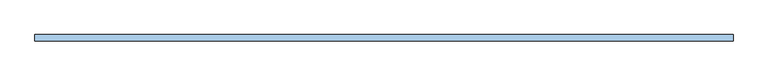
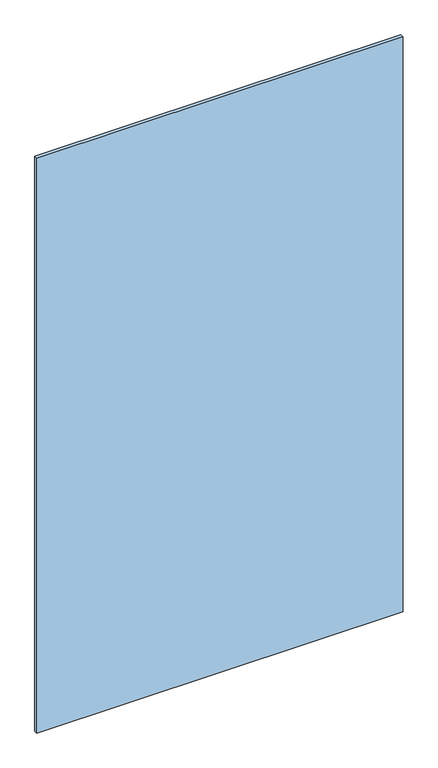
"""IFC4 building model written with IfcOpenShell, lengths in millimetres: window geometry, Baño 1 Fijo simple : CA06b-cancel baño-1 fijo de 1.21."""

from ifc_helpers import new_model, si_unit, origin, origin_with_axes, place, context, project, spatial, polyline, outline, extrude, source, transform, mapped, element, save


def window_a27440a6(model_context):
    return source(origin(), model_context, "Body", "SweptSolid", [
        extrude(outline(polyline([(-602.75, -5.5), (-602.75, 5.5), (602.75, 5.5), (602.75, -5.5), (-602.75, -5.5)])), origin_with_axes(), (0.0, 0.0, 1.0), 2000.0),
    ])


if __name__ == "__main__":
    model = new_model("IFC4")
    model_context = context("Model", 3, world=origin())
    ifc_project = project(units=[si_unit("LENGTHUNIT", "METRE", prefix="MILLI")], contexts=[model_context])
    site = spatial("IfcSite", under=ifc_project)
    building = spatial("IfcBuilding", under=site)
    placement = place(None, origin())
    window_shape = window_a27440a6(model_context)
    element("IfcWindow", 1, ObjectType="Baño 1 Fijo simple : CA06b-cancel baño-1 fijo de 1.21", at=placement, inside=building, context=model_context, shape_type="MappedRepresentation", body=[
        mapped(window_shape, transform((0.0, 0.0, 0.0), x_axis=(1.0, 0.0, 0.0), y_axis=(0.0, 1.0, 0.0), z_axis=(0.0, 0.0, 1.0))),
    ])
    save(model, "model.ifc")
